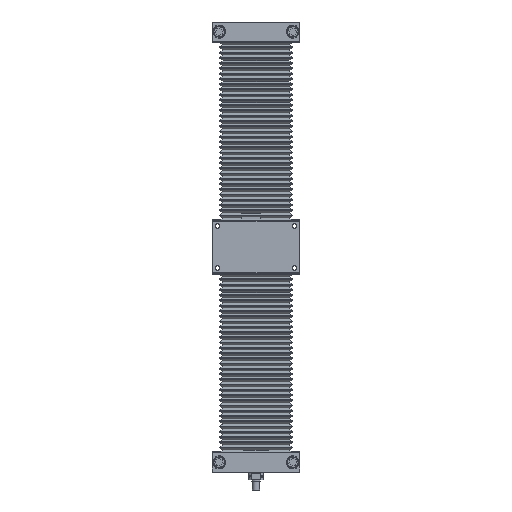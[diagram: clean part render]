
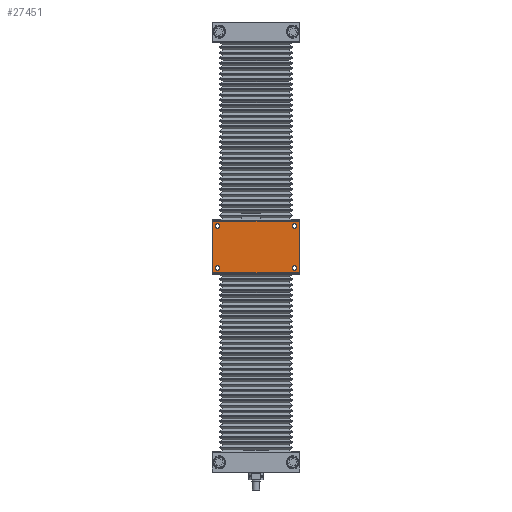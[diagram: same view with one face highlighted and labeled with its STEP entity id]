
A CAD part, front view. The second image highlights one B-rep face of the part: STEP entity #27451.
In plain terms, the highlighted planar face has unit normal (0, -1, 0).
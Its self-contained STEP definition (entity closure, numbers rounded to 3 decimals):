
#116 = DIRECTION ( 'NONE',  ( 0., 0., 1. ) ) ;
#240 = ORIENTED_EDGE ( 'NONE', *, *, #11860, .T. ) ;
#702 = CARTESIAN_POINT ( 'NONE',  ( -44., -18., 54. ) ) ;
#858 = VERTEX_POINT ( 'NONE', #10255 ) ;
#1777 = VECTOR ( 'NONE', #20525, 1000. ) ;
#2504 = CARTESIAN_POINT ( 'NONE',  ( 44., -18., 3.5 ) ) ;
#2898 = VERTEX_POINT ( 'NONE', #29416 ) ;
#2908 = ORIENTED_EDGE ( 'NONE', *, *, #36862, .T. ) ;
#3371 = CARTESIAN_POINT ( 'NONE',  ( -44., -18., 56.5 ) ) ;
#3452 = PLANE ( 'NONE',  #39369 ) ;
#3931 = CARTESIAN_POINT ( 'NONE',  ( -50., -18., 59.5 ) ) ;
#4455 = CARTESIAN_POINT ( 'NONE',  ( -49.5, -18., 59.5 ) ) ;
#4495 = DIRECTION ( 'NONE',  ( 0., 1., 0. ) ) ;
#5500 = VERTEX_POINT ( 'NONE', #30337 ) ;
#5789 = DIRECTION ( 'NONE',  ( 0., 1., 0. ) ) ;
#5833 = AXIS2_PLACEMENT_3D ( 'NONE', #41426, #38281, #116 ) ;
#5991 = CARTESIAN_POINT ( 'NONE',  ( -50., -18., 0.5 ) ) ;
#6260 = EDGE_CURVE ( 'NONE', #10121, #858, #40856, .T. ) ;
#6733 = VECTOR ( 'NONE', #19048, 1000. ) ;
#7514 = LINE ( 'NONE', #30531, #15577 ) ;
#7684 = CARTESIAN_POINT ( 'NONE',  ( -44., -18., 3.5 ) ) ;
#7769 = CARTESIAN_POINT ( 'NONE',  ( -49.5, -18., 60. ) ) ;
#7950 = EDGE_CURVE ( 'NONE', #5500, #34841, #38815, .T. ) ;
#8703 = CIRCLE ( 'NONE', #21389, 2.5 ) ;
#9366 = FACE_OUTER_BOUND ( 'NONE', #13329, .T. ) ;
#9781 = FACE_BOUND ( 'NONE', #11883, .T. ) ;
#10121 = VERTEX_POINT ( 'NONE', #3371 ) ;
#10255 = CARTESIAN_POINT ( 'NONE',  ( -44., -18., 51.5 ) ) ;
#11240 = VERTEX_POINT ( 'NONE', #40028 ) ;
#11860 = EDGE_CURVE ( 'NONE', #34841, #5500, #20707, .T. ) ;
#11883 = EDGE_LOOP ( 'NONE', ( #33751, #37173 ) ) ;
#11896 = EDGE_CURVE ( 'NONE', #23507, #11240, #8703, .T. ) ;
#12101 = DIRECTION ( 'NONE',  ( 0., 0., 1. ) ) ;
#12188 = EDGE_CURVE ( 'NONE', #11240, #23507, #21917, .T. ) ;
#12919 = FACE_BOUND ( 'NONE', #37420, .T. ) ;
#12978 = DIRECTION ( 'NONE',  ( 0., 0., 1. ) ) ;
#13329 = EDGE_LOOP ( 'NONE', ( #2908, #39827, #14653, #25728 ) ) ;
#13504 = DIRECTION ( 'NONE',  ( 0., 1., 0. ) ) ;
#14045 = VECTOR ( 'NONE', #28201, 1000. ) ;
#14525 = EDGE_CURVE ( 'NONE', #30471, #25553, #7514, .T. ) ;
#14653 = ORIENTED_EDGE ( 'NONE', *, *, #26088, .T. ) ;
#14756 = EDGE_CURVE ( 'NONE', #2898, #25453, #25630, .T. ) ;
#15192 = CIRCLE ( 'NONE', #5833, 2.5 ) ;
#15577 = VECTOR ( 'NONE', #24227, 1000. ) ;
#16247 = DIRECTION ( 'NONE',  ( 0., 0., 1. ) ) ;
#17080 = CARTESIAN_POINT ( 'NONE',  ( 44., -18., 6. ) ) ;
#17481 = CARTESIAN_POINT ( 'NONE',  ( -44., -18., 6. ) ) ;
#17490 = DIRECTION ( 'NONE',  ( 0., 0., 1. ) ) ;
#17604 = ORIENTED_EDGE ( 'NONE', *, *, #29894, .T. ) ;
#17782 = ORIENTED_EDGE ( 'NONE', *, *, #14756, .T. ) ;
#18233 = EDGE_CURVE ( 'NONE', #858, #10121, #15192, .T. ) ;
#19048 = DIRECTION ( 'NONE',  ( -1., 0., 0. ) ) ;
#19183 = CARTESIAN_POINT ( 'NONE',  ( -44., -18., 6. ) ) ;
#19355 = EDGE_LOOP ( 'NONE', ( #17604, #17782 ) ) ;
#19392 = FACE_BOUND ( 'NONE', #38743, .T. ) ;
#19631 = AXIS2_PLACEMENT_3D ( 'NONE', #34927, #24435, #12101 ) ;
#20333 = CARTESIAN_POINT ( 'NONE',  ( -49.5, -18., 0.5 ) ) ;
#20525 = DIRECTION ( 'NONE',  ( 0., 0., -1. ) ) ;
#20707 = CIRCLE ( 'NONE', #26056, 2.5 ) ;
#21389 = AXIS2_PLACEMENT_3D ( 'NONE', #19183, #5789, #35326 ) ;
#21917 = CIRCLE ( 'NONE', #38658, 2.5 ) ;
#22134 = VERTEX_POINT ( 'NONE', #4455 ) ;
#22324 = CARTESIAN_POINT ( 'NONE',  ( 44., -18., 6. ) ) ;
#23507 = VERTEX_POINT ( 'NONE', #7684 ) ;
#24031 = AXIS2_PLACEMENT_3D ( 'NONE', #17080, #4495, #17490 ) ;
#24227 = DIRECTION ( 'NONE',  ( 0., 0., 1. ) ) ;
#24435 = DIRECTION ( 'NONE',  ( 0., 1., 0. ) ) ;
#25261 = FACE_BOUND ( 'NONE', #19355, .T. ) ;
#25453 = VERTEX_POINT ( 'NONE', #29739 ) ;
#25553 = VERTEX_POINT ( 'NONE', #33706 ) ;
#25630 = CIRCLE ( 'NONE', #19631, 2.5 ) ;
#25728 = ORIENTED_EDGE ( 'NONE', *, *, #14525, .T. ) ;
#25983 = ORIENTED_EDGE ( 'NONE', *, *, #12188, .T. ) ;
#26056 = AXIS2_PLACEMENT_3D ( 'NONE', #22324, #31358, #28634 ) ;
#26088 = EDGE_CURVE ( 'NONE', #37874, #30471, #31968, .T. ) ;
#26827 = LINE ( 'NONE', #7769, #1777 ) ;
#27320 = DIRECTION ( 'NONE',  ( 0., 1., 0. ) ) ;
#27451 = ADVANCED_FACE ( 'NONE', ( #9366, #12919, #9781, #19392, #25261 ), #3452, .F. ) ;
#28201 = DIRECTION ( 'NONE',  ( 1., 0., 0. ) ) ;
#28483 = CARTESIAN_POINT ( 'NONE',  ( 44., -18., 54. ) ) ;
#28634 = DIRECTION ( 'NONE',  ( 0., 0., 1. ) ) ;
#29416 = CARTESIAN_POINT ( 'NONE',  ( 44., -18., 51.5 ) ) ;
#29739 = CARTESIAN_POINT ( 'NONE',  ( 44., -18., 56.5 ) ) ;
#29894 = EDGE_CURVE ( 'NONE', #25453, #2898, #35075, .T. ) ;
#30268 = DIRECTION ( 'NONE',  ( 0., 0., 1. ) ) ;
#30337 = CARTESIAN_POINT ( 'NONE',  ( 44., -18., 8.5 ) ) ;
#30404 = ORIENTED_EDGE ( 'NONE', *, *, #11896, .T. ) ;
#30471 = VERTEX_POINT ( 'NONE', #33179 ) ;
#30531 = CARTESIAN_POINT ( 'NONE',  ( 49.5, -18., 60. ) ) ;
#31358 = DIRECTION ( 'NONE',  ( 0., 1., 0. ) ) ;
#31968 = LINE ( 'NONE', #5991, #14045 ) ;
#32188 = DIRECTION ( 'NONE',  ( 0., 1., 0. ) ) ;
#33179 = CARTESIAN_POINT ( 'NONE',  ( 49.5, -18., 0.5 ) ) ;
#33541 = EDGE_CURVE ( 'NONE', #22134, #37874, #26827, .T. ) ;
#33706 = CARTESIAN_POINT ( 'NONE',  ( 49.5, -18., 59.5 ) ) ;
#33751 = ORIENTED_EDGE ( 'NONE', *, *, #6260, .T. ) ;
#34841 = VERTEX_POINT ( 'NONE', #2504 ) ;
#34927 = CARTESIAN_POINT ( 'NONE',  ( 44., -18., 54. ) ) ;
#35075 = CIRCLE ( 'NONE', #35731, 2.5 ) ;
#35326 = DIRECTION ( 'NONE',  ( 0., 0., 1. ) ) ;
#35731 = AXIS2_PLACEMENT_3D ( 'NONE', #28483, #38133, #12978 ) ;
#35915 = DIRECTION ( 'NONE',  ( 0., 0., 1. ) ) ;
#36014 = LINE ( 'NONE', #3931, #6733 ) ;
#36862 = EDGE_CURVE ( 'NONE', #25553, #22134, #36014, .T. ) ;
#37173 = ORIENTED_EDGE ( 'NONE', *, *, #18233, .T. ) ;
#37420 = EDGE_LOOP ( 'NONE', ( #25983, #30404 ) ) ;
#37874 = VERTEX_POINT ( 'NONE', #20333 ) ;
#38133 = DIRECTION ( 'NONE',  ( 0., 1., 0. ) ) ;
#38281 = DIRECTION ( 'NONE',  ( 0., 1., 0. ) ) ;
#38658 = AXIS2_PLACEMENT_3D ( 'NONE', #17481, #27320, #30268 ) ;
#38743 = EDGE_LOOP ( 'NONE', ( #39673, #240 ) ) ;
#38815 = CIRCLE ( 'NONE', #24031, 2.5 ) ;
#38846 = AXIS2_PLACEMENT_3D ( 'NONE', #702, #13504, #35915 ) ;
#39369 = AXIS2_PLACEMENT_3D ( 'NONE', #41221, #32188, #16247 ) ;
#39673 = ORIENTED_EDGE ( 'NONE', *, *, #7950, .T. ) ;
#39827 = ORIENTED_EDGE ( 'NONE', *, *, #33541, .T. ) ;
#40028 = CARTESIAN_POINT ( 'NONE',  ( -44., -18., 8.5 ) ) ;
#40856 = CIRCLE ( 'NONE', #38846, 2.5 ) ;
#41221 = CARTESIAN_POINT ( 'NONE',  ( -50., -18., 60. ) ) ;
#41426 = CARTESIAN_POINT ( 'NONE',  ( -44., -18., 54. ) ) ;
